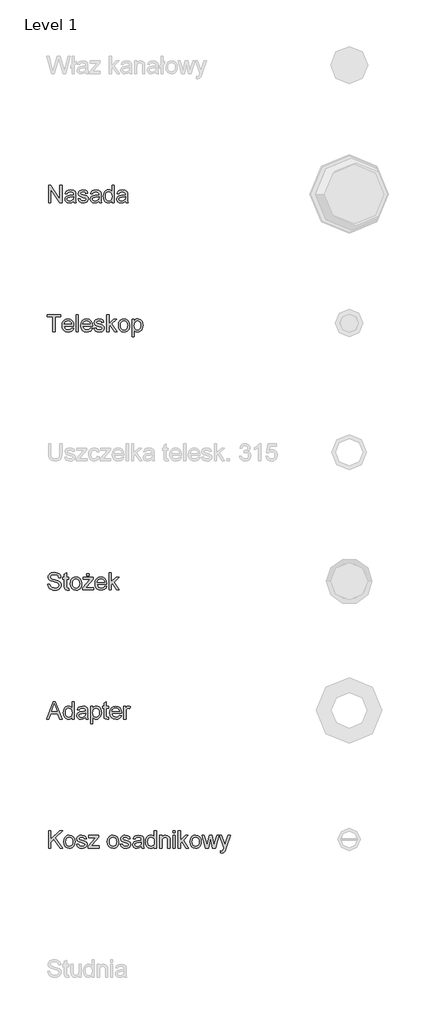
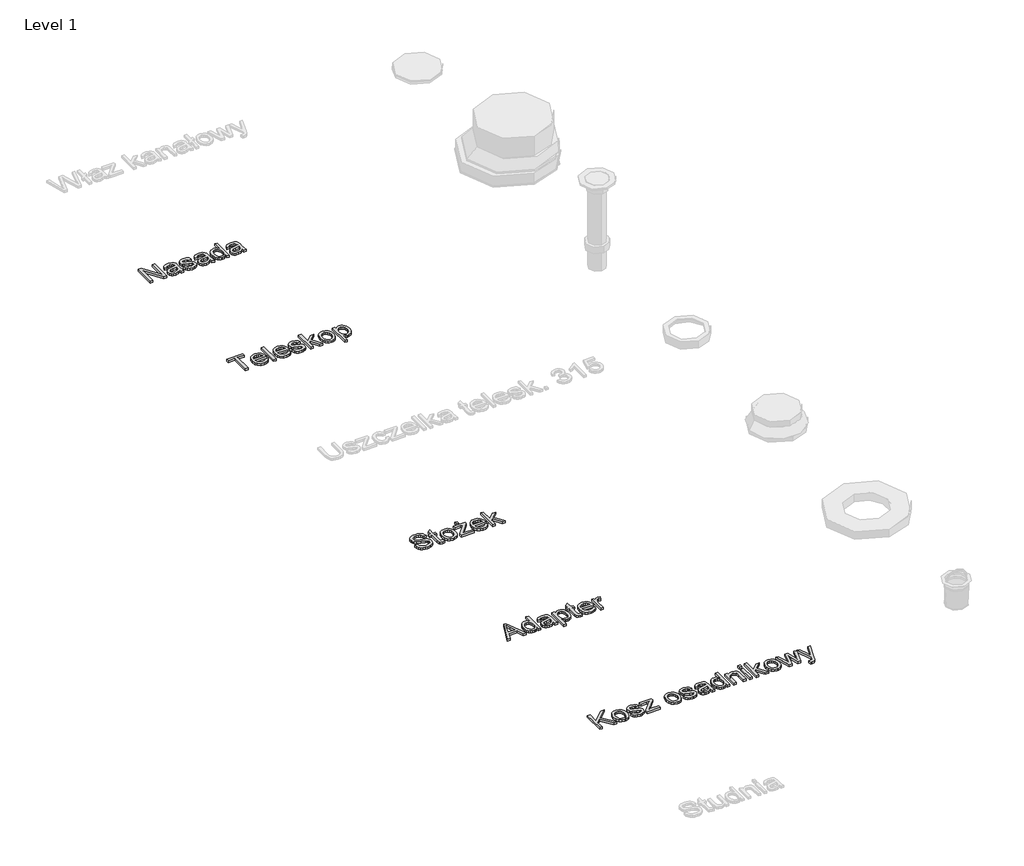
# One storey, part 2 of 8: 5 proxies.
"""IFC4 building model written with IfcOpenShell, lengths in millimetres."""

from ifc_helpers import new_model, si_unit, origin, origin_with_axes, place, context, project, spatial, polyline, outline, extrude, element, save

model = new_model("IFC4")

# Units and contexts
model_context = context("Model", 3, world=origin())
ifc_project = project(units=[si_unit("LENGTHUNIT", "METRE", prefix="MILLI")], contexts=[model_context])

# Site, building, storey
site = spatial("IfcSite", under=ifc_project)
building = spatial("IfcBuilding", under=site)
storey = spatial("IfcBuildingStorey", under=building, Name="Level 1", Elevation=0.0)

# Proxies
placement = place(None, origin())
element("IfcBuildingElementProxy", 1, Name="200mm Arial", ObjectType="200mm Arial", at=placement, inside=storey, context=model_context, shape_type="SweptSolid", body=[
    extrude(outline(polyline([(-16830.6923074, -20513.949573), (-16830.6923074, -20313.0369527), (-16803.8123963, -20313.0369527), (-16698.8434003, -20472.2072292), (-16698.8434003, -20313.0369527), (-16673.7293228, -20313.0369527), (-16673.7293228, -20513.949573), (-16700.6092339, -20513.949573), (-16805.5782298, -20354.7302454), (-16805.5782298, -20513.949573), (-16830.6923074, -20513.949573)])), origin_with_axes(), (0.0, 0.0, 1.0), 20.0),
    extrude(outline(polyline([(-16538.741156, -20495.1140148), (-16563.0949441, -20512.1346884), (-16589.9993807, -20517.0888326), (-16610.9870485, -20514.1089885), (-16626.4687491, -20505.169456), (-16636.0152869, -20491.5946104), (-16639.1974661, -20474.7088268), (-16634.3904747, -20454.8431991), (-16621.7598596, -20440.4222249), (-16604.1751002, -20432.1816682), (-16582.445537, -20428.4047463), (-16538.8883088, -20419.7717822), (-16538.741156, -20414.1799759), (-16540.4702014, -20402.9718377), (-16545.6573375, -20395.6387233), (-16557.2578831, -20390.1940698), (-16573.4201654, -20388.3791853), (-16588.3806999, -20389.5870645), (-16598.8285485, -20393.2107021), (-16605.9531965, -20399.9122858), (-16610.9441289, -20410.3540031), (-16636.0582065, -20407.2147434), (-16625.1934249, -20382.6892771), (-16615.9350613, -20374.4364576), (-16603.3167089, -20368.3173538), (-16570.1828039, -20363.2651077), (-16539.7467001, -20367.7287426), (-16522.5543482, -20378.9368807), (-16514.8533518, -20395.9820798), (-16513.6270785, -20417.9568977), (-16513.6270785, -20449.2023418), (-16512.3517542, -20492.8331464), (-16507.3485591, -20513.949573), (-16532.4626366, -20513.949573), (-16538.741156, -20495.1140148)]), holes=[polyline([(-16538.741156, -20444.8858597), (-16579.2572264, -20452.5868562), (-16600.8641623, -20456.6580836), (-16610.6498233, -20463.2799595), (-16614.0833886, -20472.9429932), (-16612.2133218, -20480.4109977), (-16606.6031214, -20486.5301016), (-16597.3754147, -20490.6135917), (-16584.652829, -20491.9747551), (-16571.1638225, -20490.4725703), (-16559.2444459, -20485.9660159), (-16542.8614343, -20471.4224143), (-16538.8883088, -20451.998245), (-16538.741156, -20444.8858597)])]), origin_with_axes(), (0.0, 0.0, 1.0), 20.0),
    extrude(outline(polyline([(-16488.5130009, -20469.9999373), (-16463.3989234, -20466.8606776), (-16459.4380606, -20477.6028318), (-16451.7738523, -20485.500032), (-16440.3572478, -20490.3560743), (-16425.1391959, -20491.9747551), (-16410.105085, -20490.4909644), (-16399.534609, -20486.0395923), (-16393.2806151, -20479.5893946), (-16391.1959505, -20472.1091274), (-16393.2928778, -20465.7079807), (-16399.58366, -20460.8274129), (-16425.4335015, -20453.6659767), (-16463.2517706, -20441.378718), (-16472.8228338, -20435.2044319), (-16479.7574094, -20427.0313202), (-16485.3737412, -20406.773285), (-16480.8610554, -20388.0603542), (-16468.5492713, -20373.7620073), (-16452.5831927, -20366.330791), (-16430.9762569, -20363.2651077), (-16400.4175258, -20368.1947265), (-16388.9886585, -20373.9949993), (-16380.9933565, -20381.5365802), (-16372.3603923, -20404.0754837), (-16397.4744699, -20407.2147434), (-16400.6443864, -20399.3114119), (-16406.9167744, -20393.3578549), (-16429.0142196, -20388.3791853), (-16443.4351938, -20389.5686704), (-16453.0491766, -20393.1371257), (-16458.4570419, -20398.2874737), (-16460.2596637, -20404.2226365), (-16457.2675568, -20411.5312255), (-16447.8988287, -20417.0739809), (-16426.2673673, -20422.4205326), (-16389.4055914, -20434.2418073), (-16372.2868159, -20447.632712), (-16367.6331087, -20457.4796867), (-16366.0818729, -20469.460377), (-16367.9028888, -20481.8457375), (-16373.3659364, -20493.495334), (-16382.2625494, -20503.4955929), (-16394.3842611, -20510.9329406), (-16409.0259645, -20515.5498596), (-16425.4825524, -20517.0888326), (-16450.8050964, -20514.1212512), (-16469.2850353, -20505.2185069), (-16481.6213449, -20490.4787017), (-16488.5130009, -20469.9999373)])), origin_with_axes(), (0.0, 0.0, 1.0), 20.0),
    extrude(outline(polyline([(-16243.6507449, -20495.1140148), (-16268.004533, -20512.1346884), (-16294.9089696, -20517.0888326), (-16315.8966374, -20514.1089885), (-16331.3783381, -20505.169456), (-16340.9248758, -20491.5946104), (-16344.1070551, -20474.7088268), (-16339.3000637, -20454.8431991), (-16326.6694485, -20440.4222249), (-16309.0846891, -20432.1816682), (-16287.355126, -20428.4047463), (-16243.7978977, -20419.7717822), (-16243.6507449, -20414.1799759), (-16245.3797903, -20402.9718377), (-16250.5669264, -20395.6387233), (-16262.167472, -20390.1940698), (-16278.3297543, -20388.3791853), (-16293.2902888, -20389.5870645), (-16303.7381375, -20393.2107021), (-16310.8627855, -20399.9122858), (-16315.8537179, -20410.3540031), (-16340.9677954, -20407.2147434), (-16330.1030138, -20382.6892771), (-16320.8446503, -20374.4364576), (-16308.2262978, -20368.3173538), (-16275.0923928, -20363.2651077), (-16244.6562891, -20367.7287426), (-16227.4639371, -20378.9368807), (-16219.7629407, -20395.9820798), (-16218.5366674, -20417.9568977), (-16218.5366674, -20449.2023418), (-16217.2613431, -20492.8331464), (-16212.258148, -20513.949573), (-16237.3722255, -20513.949573), (-16243.6507449, -20495.1140148)]), holes=[polyline([(-16243.6507449, -20444.8858597), (-16284.1668153, -20452.5868562), (-16305.7737512, -20456.6580836), (-16315.5594123, -20463.2799595), (-16318.9929775, -20472.9429932), (-16317.1229107, -20480.4109977), (-16311.5127103, -20486.5301016), (-16302.2850036, -20490.6135917), (-16289.5624179, -20491.9747551), (-16276.0734114, -20490.4725703), (-16264.1540348, -20485.9660159), (-16247.7710233, -20471.4224143), (-16243.7978977, -20451.998245), (-16243.6507449, -20444.8858597)])]), origin_with_axes(), (0.0, 0.0, 1.0), 20.0),
    extrude(outline(polyline([(-16092.9662797, -20513.949573), (-16092.9662797, -20490.2579725), (-16100.4802695, -20501.9964738), (-16109.5822832, -20510.3811176), (-16120.2723208, -20515.4119039), (-16132.5503824, -20517.0888326), (-16148.7862411, -20514.6608115), (-16163.6486737, -20507.376748), (-16176.230238, -20495.7455456), (-16185.6234916, -20480.2761077), (-16191.4728153, -20461.5938337), (-16193.4225899, -20440.324123), (-16191.6260994, -20419.3180611), (-16186.2366282, -20400.3476128), (-16177.2603075, -20384.4918989), (-16164.7032688, -20372.8300396), (-16149.5158737, -20365.6563407), (-16132.6484843, -20363.2651077), (-16120.3612256, -20364.975759), (-16109.496444, -20370.1077128), (-16092.9662797, -20387.8886759), (-16092.9662797, -20313.0369527), (-16067.8522022, -20313.0369527), (-16067.8522022, -20513.949573), (-16092.9662797, -20513.949573)]), holes=[polyline([(-16168.3085123, -20440.2260211), (-16165.475821, -20462.9427343), (-16156.9777469, -20479.0988853), (-16144.6291746, -20488.7557877), (-16130.2449886, -20491.9747551), (-16115.8669339, -20488.9029404), (-16103.8310613, -20479.6874965), (-16095.6824751, -20464.1567449), (-16092.9662797, -20442.1390075), (-16095.731526, -20418.0672623), (-16104.027265, -20401.3776824), (-16116.369706, -20391.6288096), (-16131.2750581, -20388.3791853), (-16145.806397, -20391.5000509), (-16157.7135109, -20400.8626476), (-16165.659762, -20416.9452222), (-16168.3085123, -20440.2260211)])]), origin_with_axes(), (0.0, 0.0, 1.0), 20.0),
    extrude(outline(polyline([(-15936.0032951, -20495.1140148), (-15960.3570832, -20512.1346884), (-15987.2615198, -20517.0888326), (-16008.2491876, -20514.1089885), (-16023.7308882, -20505.169456), (-16033.277426, -20491.5946104), (-16036.4596053, -20474.7088268), (-16031.6526138, -20454.8431991), (-16019.0219987, -20440.4222249), (-16001.4372393, -20432.1816682), (-15979.7076761, -20428.4047463), (-15936.1504479, -20419.7717822), (-15936.0032951, -20414.1799759), (-15937.7323405, -20402.9718377), (-15942.9194766, -20395.6387233), (-15954.5200222, -20390.1940698), (-15970.6823045, -20388.3791853), (-15985.642839, -20389.5870645), (-15996.0906876, -20393.2107021), (-16003.2153356, -20399.9122858), (-16008.206268, -20410.3540031), (-16033.3203456, -20407.2147434), (-16022.455564, -20382.6892771), (-16013.1972004, -20374.4364576), (-16000.578848, -20368.3173538), (-15967.444943, -20363.2651077), (-15937.0088392, -20367.7287426), (-15919.8164873, -20378.9368807), (-15912.1154909, -20395.9820798), (-15910.8892176, -20417.9568977), (-15910.8892176, -20449.2023418), (-15909.6138933, -20492.8331464), (-15904.6106982, -20513.949573), (-15929.7247757, -20513.949573), (-15936.0032951, -20495.1140148)]), holes=[polyline([(-15936.0032951, -20444.8858597), (-15976.5193655, -20452.5868562), (-15998.1263014, -20456.6580836), (-16007.9119624, -20463.2799595), (-16011.3455277, -20472.9429932), (-16009.4754609, -20480.4109977), (-16003.8652605, -20486.5301016), (-15994.6375538, -20490.6135917), (-15981.9149681, -20491.9747551), (-15968.4259616, -20490.4725703), (-15956.506585, -20485.9660159), (-15940.1235734, -20471.4224143), (-15936.1504479, -20451.998245), (-15936.0032951, -20444.8858597)])]), origin_with_axes(), (0.0, 0.0, 1.0), 20.0),
])
element("IfcBuildingElementProxy", 2, Name="200mm Arial", ObjectType="200mm Arial", at=placement, inside=storey, context=model_context, shape_type="SweptSolid", body=[
    extrude(outline(polyline([(-16780.4641523, -22013.949573), (-16780.4641523, -21838.1510302), (-16846.3886058, -21838.1510302), (-16846.3886058, -21813.0369527), (-16689.4256212, -21813.0369527), (-16689.4256212, -21838.1510302), (-16755.3500748, -21838.1510302), (-16755.3500748, -22013.949573), (-16780.4641523, -22013.949573)])), origin_with_axes(), (0.0, 0.0, 1.0), 20.0),
    extrude(outline(polyline([(-16561.0102794, -21969.9999373), (-16536.3867112, -21973.139197), (-16545.2587987, -21991.6927122), (-16559.4161241, -22005.5618635), (-16578.5398565, -22014.2070904), (-16602.3111648, -22017.0888326), (-16631.7785126, -22012.1162943), (-16654.4523062, -21997.1986794), (-16668.9100686, -21973.3047439), (-16673.7293228, -21941.4032435), (-16668.8610177, -21908.428754), (-16654.2561025, -21883.7683976), (-16631.8888772, -21868.3909302), (-16603.7336418, -21863.2651077), (-16576.4551919, -21868.3786675), (-16554.6581837, -21883.7193467), (-16540.3659681, -21908.3306521), (-16535.6018963, -21941.2560907), (-16535.7490491, -21948.0251194), (-16648.6152452, -21948.0251194), (-16644.2681063, -21966.8238894), (-16634.1697455, -21980.6439897), (-16619.5954872, -21989.1420637), (-16601.8206554, -21991.9747551), (-16577.1970872, -21986.7263053), (-16568.0490883, -21979.9204884), (-16561.0102794, -21969.9999373)]), holes=[polyline([(-16648.6152452, -21922.9110419), (-16560.7159738, -21922.9110419), (-16564.1127509, -21909.6427646), (-16570.771415, -21900.1514091), (-16585.4131185, -21891.3222412), (-16603.8317437, -21888.3791853), (-16620.7604468, -21890.7274987), (-16634.7583567, -21897.7724389), (-16644.4888355, -21908.7537164), (-16648.6152452, -21922.9110419)])]), origin_with_axes(), (0.0, 0.0, 1.0), 20.0),
    extrude(outline(polyline([(-16510.4878188, -22013.949573), (-16510.4878188, -21813.0369527), (-16485.3737412, -21813.0369527), (-16485.3737412, -22013.949573), (-16510.4878188, -22013.949573)])), origin_with_axes(), (0.0, 0.0, 1.0), 20.0),
    extrude(outline(polyline([(-16344.4013607, -21969.9999373), (-16319.7777925, -21973.139197), (-16328.6498799, -21991.6927122), (-16342.8072054, -22005.5618635), (-16361.9309377, -22014.2070904), (-16385.702246, -22017.0888326), (-16415.1695938, -22012.1162943), (-16437.8433875, -21997.1986794), (-16452.3011499, -21973.3047439), (-16457.120404, -21941.4032435), (-16452.2520989, -21908.428754), (-16437.6471837, -21883.7683976), (-16415.2799584, -21868.3909302), (-16387.1247231, -21863.2651077), (-16359.8462731, -21868.3786675), (-16338.0492649, -21883.7193467), (-16323.7570494, -21908.3306521), (-16318.9929775, -21941.2560907), (-16319.1401303, -21948.0251194), (-16432.0063265, -21948.0251194), (-16427.6591876, -21966.8238894), (-16417.5608268, -21980.6439897), (-16402.9865684, -21989.1420637), (-16385.2117367, -21991.9747551), (-16360.5881685, -21986.7263053), (-16351.4401695, -21979.9204884), (-16344.4013607, -21969.9999373)]), holes=[polyline([(-16432.0063265, -21922.9110419), (-16344.1070551, -21922.9110419), (-16347.5038322, -21909.6427646), (-16354.1624963, -21900.1514091), (-16368.8041997, -21891.3222412), (-16387.2228249, -21888.3791853), (-16404.1515281, -21890.7274987), (-16418.149438, -21897.7724389), (-16427.8799168, -21908.7537164), (-16432.0063265, -21922.9110419)])]), origin_with_axes(), (0.0, 0.0, 1.0), 20.0),
    extrude(outline(polyline([(-16303.2966791, -21969.9999373), (-16278.1826015, -21966.8606776), (-16274.2217387, -21977.6028318), (-16266.5575305, -21985.500032), (-16255.1409259, -21990.3560743), (-16239.922874, -21991.9747551), (-16224.8887632, -21990.4909644), (-16214.3182872, -21986.0395923), (-16208.0642933, -21979.5893946), (-16205.9796286, -21972.1091274), (-16208.076556, -21965.7079807), (-16214.3673381, -21960.8274129), (-16240.2171796, -21953.6659767), (-16278.0354487, -21941.378718), (-16287.606512, -21935.2044319), (-16294.5410876, -21927.0313202), (-16300.1574194, -21906.773285), (-16295.6447336, -21888.0603542), (-16283.3329495, -21873.7620073), (-16267.3668709, -21866.330791), (-16245.759935, -21863.2651077), (-16215.201204, -21868.1947265), (-16203.7723367, -21873.9949993), (-16195.7770346, -21881.5365802), (-16187.1440705, -21904.0754837), (-16212.258148, -21907.2147434), (-16215.4280645, -21899.3114119), (-16221.7004526, -21893.3578549), (-16243.7978977, -21888.3791853), (-16258.2188719, -21889.5686704), (-16267.8328548, -21893.1371257), (-16273.2407201, -21898.2874737), (-16275.0433419, -21904.2226365), (-16272.051235, -21911.5312255), (-16262.6825068, -21917.0739809), (-16241.0510455, -21922.4205326), (-16204.1892696, -21934.2418073), (-16187.0704941, -21947.632712), (-16182.4167868, -21957.4796867), (-16180.8655511, -21969.460377), (-16182.686567, -21981.8457375), (-16188.1496146, -21993.495334), (-16197.0462275, -22003.4955929), (-16209.1679393, -22010.9329406), (-16223.8096427, -22015.5498596), (-16240.2662306, -22017.0888326), (-16265.5887746, -22014.1212512), (-16284.0687135, -22005.2185069), (-16296.405023, -21990.4787017), (-16303.2966791, -21969.9999373)])), origin_with_axes(), (0.0, 0.0, 1.0), 20.0),
    extrude(outline(polyline([(-16152.6122139, -22013.949573), (-16152.6122139, -21813.0369527), (-16127.4981363, -21813.0369527), (-16127.4981363, -21920.9980555), (-16071.1876656, -21866.4043674), (-16036.4596053, -21866.4043674), (-16093.456789, -21921.6847686), (-16033.3203456, -22013.949573), (-16062.6528033, -22013.949573), (-16111.4584813, -21939.1469006), (-16127.4981363, -21954.6960463), (-16127.4981363, -22013.949573), (-16152.6122139, -22013.949573)])), origin_with_axes(), (0.0, 0.0, 1.0), 20.0),
    extrude(outline(polyline([(-16017.6240471, -21940.1769702), (-16012.1916563, -21904.6027813), (-16005.4011678, -21890.7796153), (-15995.8944839, -21879.5990683), (-15975.759076, -21867.3485979), (-15951.6505426, -21863.2651077), (-15925.2672722, -21868.237646), (-15904.1937653, -21883.1552609), (-15890.3797963, -21906.8407301), (-15885.77514, -21938.116831), (-15887.8107537, -21963.4884259), (-15893.9175949, -21982.8022307), (-15903.9178538, -21997.2661245), (-15917.6337208, -22008.0879865), (-15933.9247618, -22014.8386211), (-15951.6505426, -22017.0888326), (-15978.3526441, -22012.1346884), (-15999.4016256, -21997.2722558), (-16013.0684417, -21973.090146), (-16017.6240471, -21940.1769702)]), holes=[polyline([(-15992.5099696, -21940.1279193), (-15989.6037018, -21962.8568952), (-15980.8848985, -21979.0498343), (-15967.763774, -21988.7435249), (-15951.6505426, -21991.9747551), (-15935.6108876, -21988.7251308), (-15922.5142886, -21978.9762579), (-15913.7954853, -21962.568721), (-15910.8892176, -21939.3431043), (-15913.8138794, -21917.276316), (-15922.587865, -21901.304106), (-15935.7028581, -21891.6104155), (-15951.6505426, -21888.3791853), (-15967.763774, -21891.5981527), (-15980.8848985, -21901.2550551), (-15989.6037018, -21917.4112061), (-15992.5099696, -21940.1279193)])]), origin_with_axes(), (0.0, 0.0, 1.0), 20.0),
    extrude(outline(polyline([(-15857.5218028, -22070.4562474), (-15857.5218028, -21866.4043674), (-15832.4077253, -21866.4043674), (-15832.4077253, -21891.0279356), (-15815.0436951, -21870.2058147), (-15804.3505918, -21865.0002845), (-15791.5973493, -21863.2651077), (-15774.6134638, -21865.6931289), (-15759.7632939, -21872.9771924), (-15747.672239, -21884.6758398), (-15738.9656985, -21900.3476128), (-15733.704986, -21918.8520772), (-15731.9514151, -21939.0487987), (-15733.9318465, -21960.5269759), (-15739.8731407, -21979.7365474), (-15749.5852254, -21995.702626), (-15762.8780282, -22007.4503244), (-15778.3597288, -22014.6792056), (-15794.6385071, -22017.0888326), (-15806.1838704, -22015.4762832), (-15816.4906976, -22010.638635), (-15832.4077253, -21994.3291999), (-15832.4077253, -22070.4562474), (-15857.5218028, -22070.4562474)]), holes=[polyline([(-15832.4077253, -21941.3541926), (-15829.6915299, -21963.8685707), (-15821.5429437, -21979.6139201), (-15809.5193338, -21988.8845463), (-15795.1780673, -21991.9747551), (-15780.603809, -21988.7741818), (-15768.2736308, -21979.1724617), (-15759.8675272, -21962.8507638), (-15757.0654926, -21939.4902571), (-15759.8000821, -21917.0985064), (-15768.0038506, -21901.1324278), (-15780.0090664, -21891.5674959), (-15794.1479978, -21888.3791853), (-15808.3421114, -21891.769831), (-15820.8071797, -21901.9417682), (-15829.5075889, -21918.5761657), (-15832.4077253, -21941.3541926)])]), origin_with_axes(), (0.0, 0.0, 1.0), 20.0),
])
element("IfcBuildingElementProxy", 3, Name="200mm Arial", ObjectType="200mm Arial", at=placement, inside=storey, context=model_context, shape_type="SweptSolid", body=[
    extrude(outline(polyline([(-16840.1100864, -24944.8858597), (-16814.9960089, -24944.8858597), (-16806.902605, -24970.0244627), (-16798.7724129, -24978.9149443), (-16787.1350791, -24985.9169649), (-16772.9103087, -24990.4603076), (-16757.0178065, -24991.9747551), (-16730.7755575, -24987.3884929), (-16713.8284602, -24974.7824032), (-16708.2611794, -24957.9334078), (-16712.4305087, -24942.2616348), (-16718.7826044, -24936.0628232), (-16729.5002332, -24930.857293), (-16766.0677036, -24921.2678356), (-16805.431077, -24908.8824751), (-16817.9329335, -24900.433452), (-16826.7927582, -24890.1940698), (-16832.0718649, -24878.3850577), (-16833.8315671, -24865.227145), (-16831.6549319, -24850.5179966), (-16825.1250265, -24836.8021295), (-16814.4135291, -24825.1770585), (-16799.6921179, -24816.7402981), (-16782.0215194, -24811.6083442), (-16762.46246, -24809.897693), (-16741.2724571, -24811.688052), (-16722.7312045, -24817.0591291), (-16707.5008899, -24825.9005598), (-16696.2437009, -24838.1019793), (-16689.1190529, -24852.9030982), (-16686.2863615, -24869.5436271), (-16711.4004391, -24869.5436271), (-16716.0112267, -24854.5585672), (-16725.6252095, -24843.7428365), (-16740.6470577, -24837.194537), (-16761.4814413, -24835.0117705), (-16782.8063343, -24837.1700115), (-16797.435775, -24843.6447347), (-16805.8970609, -24853.1728783), (-16808.7174895, -24864.491381), (-16806.718664, -24874.1421521), (-16800.7221875, -24881.9044622), (-16786.5464679, -24888.8451691), (-16759.7156078, -24895.9330289), (-16715.2754628, -24908.5391186), (-16700.9587218, -24917.6503293), (-16690.9707256, -24928.8952557), (-16685.1030078, -24942.1512702), (-16683.1471018, -24957.2957457), (-16685.3973134, -24972.7774463), (-16692.147948, -24987.339442), (-16703.1230942, -24999.8719553), (-16718.0468404, -25009.2652089), (-16735.9933504, -25015.1329267), (-16756.0367878, -25017.0888326), (-16780.6419619, -25014.9796425), (-16800.8938658, -25008.6520722), (-16817.0254912, -24998.0815962), (-16829.2698303, -24983.2436891), (-16837.1302423, -24965.1684204), (-16840.1100864, -24944.8858597)])), origin_with_axes(), (0.0, 0.0, 1.0), 20.0),
    extrude(outline(polyline([(-16595.2478305, -24993.0048247), (-16592.1085708, -25014.6853369), (-16610.895078, -25017.0888326), (-16631.9379281, -25012.9195034), (-16642.4348277, -25001.9811454), (-16645.4759855, -24973.4825535), (-16645.4759855, -24891.518445), (-16664.3115437, -24891.518445), (-16664.3115437, -24866.4043674), (-16645.4759855, -24866.4043674), (-16645.4759855, -24830.5481356), (-16620.361908, -24815.7838049), (-16620.361908, -24866.4043674), (-16595.2478305, -24866.4043674), (-16595.2478305, -24891.518445), (-16620.361908, -24891.518445), (-16620.361908, -24972.7467895), (-16619.0375328, -24985.6962357), (-16614.7455762, -24990.2824979), (-16606.1861884, -24991.9747551), (-16595.2478305, -24993.0048247)])), origin_with_axes(), (0.0, 0.0, 1.0), 20.0),
    extrude(outline(polyline([(-16576.4122723, -24940.1769702), (-16570.9798815, -24904.6027813), (-16564.189393, -24890.7796153), (-16554.6827091, -24879.5990683), (-16534.5473013, -24867.3485979), (-16510.4387678, -24863.2651077), (-16484.0554974, -24868.237646), (-16462.9819905, -24883.1552609), (-16449.1680215, -24906.8407301), (-16444.5633652, -24938.116831), (-16446.5989789, -24963.4884259), (-16452.7058201, -24982.8022307), (-16462.706079, -24997.2661245), (-16476.421946, -25008.0879865), (-16492.712987, -25014.8386211), (-16510.4387678, -25017.0888326), (-16537.1408693, -25012.1346884), (-16558.1898508, -24997.2722558), (-16571.8566669, -24973.090146), (-16576.4122723, -24940.1769702)]), holes=[polyline([(-16551.2981948, -24940.1279193), (-16548.391927, -24962.8568952), (-16539.6731237, -24979.0498343), (-16526.5519992, -24988.7435249), (-16510.4387678, -24991.9747551), (-16494.3991128, -24988.7251308), (-16481.3025138, -24978.9762579), (-16472.5837105, -24962.568721), (-16469.6774428, -24939.3431043), (-16472.6021046, -24917.276316), (-16481.3760902, -24901.304106), (-16494.4910833, -24891.6104155), (-16510.4387678, -24888.3791853), (-16526.5519992, -24891.5981527), (-16539.6731237, -24901.2550551), (-16548.391927, -24917.4112061), (-16551.2981948, -24940.1279193)])]), origin_with_axes(), (0.0, 0.0, 1.0), 20.0),
    extrude(outline(polyline([(-16384.9174311, -24850.708069), (-16384.9174311, -24825.5939914), (-16359.8033535, -24825.5939914), (-16359.8033535, -24850.708069), (-16384.9174311, -24850.708069)])), origin_with_axes(), (0.0, 0.0, 1.0), 20.0),
    extrude(outline(polyline([(-16432.0063265, -25013.949573), (-16432.0063265, -24990.3070234), (-16345.3333284, -24891.518445), (-16370.9869662, -24891.518445), (-16425.7278071, -24891.518445), (-16425.7278071, -24866.4043674), (-16309.5751985, -24866.4043674), (-16309.5751985, -24887.7415231), (-16386.43801, -24975.3955399), (-16398.2102338, -24988.8354954), (-16369.1720817, -24988.8354954), (-16306.4359388, -24988.8354954), (-16306.4359388, -25013.949573), (-16432.0063265, -25013.949573)])), origin_with_axes(), (0.0, 0.0, 1.0), 20.0),
    extrude(outline(polyline([(-16178.020597, -24969.9999373), (-16153.3970288, -24973.139197), (-16162.2691162, -24991.6927122), (-16176.4264417, -25005.5618635), (-16195.5501741, -25014.2070904), (-16219.3214823, -25017.0888326), (-16248.7888301, -25012.1162943), (-16271.4626238, -24997.1986794), (-16285.9203862, -24973.3047439), (-16290.7396403, -24941.4032435), (-16285.8713352, -24908.428754), (-16271.26642, -24883.7683976), (-16248.8991947, -24868.3909302), (-16220.7439594, -24863.2651077), (-16193.4655094, -24868.3786675), (-16171.6685012, -24883.7193467), (-16157.3762857, -24908.3306521), (-16152.6122139, -24941.2560907), (-16152.7593667, -24948.0251194), (-16265.6255628, -24948.0251194), (-16261.2784239, -24966.8238894), (-16251.1800631, -24980.6439897), (-16236.6058047, -24989.1420637), (-16218.830973, -24991.9747551), (-16194.2074048, -24986.7263053), (-16185.0594058, -24979.9204884), (-16178.020597, -24969.9999373)]), holes=[polyline([(-16265.6255628, -24922.9110419), (-16177.7262914, -24922.9110419), (-16181.1230685, -24909.6427646), (-16187.7817326, -24900.1514091), (-16202.423436, -24891.3222412), (-16220.8420612, -24888.3791853), (-16237.7707644, -24890.7274987), (-16251.7686743, -24897.7724389), (-16261.4991531, -24908.7537164), (-16265.6255628, -24922.9110419)])]), origin_with_axes(), (0.0, 0.0, 1.0), 20.0),
    extrude(outline(polyline([(-16127.4981363, -25013.949573), (-16127.4981363, -24813.0369527), (-16102.3840588, -24813.0369527), (-16102.3840588, -24920.9980555), (-16046.0735881, -24866.4043674), (-16011.3455277, -24866.4043674), (-16068.3427115, -24921.6847686), (-16008.206268, -25013.949573), (-16037.5387258, -25013.949573), (-16086.3444038, -24939.1469006), (-16102.3840588, -24954.6960463), (-16102.3840588, -25013.949573), (-16127.4981363, -25013.949573)])), origin_with_axes(), (0.0, 0.0, 1.0), 20.0),
])
element("IfcBuildingElementProxy", 4, Name="200mm Arial", ObjectType="200mm Arial", at=placement, inside=storey, context=model_context, shape_type="SweptSolid", body=[
    extrude(outline(polyline([(-16854.0896023, -26513.949573), (-16773.8913273, -26313.0369527), (-16752.5051207, -26313.0369527), (-16672.3068457, -26513.949573), (-16698.8434003, -26513.949573), (-16721.8482877, -26451.1643791), (-16804.5972112, -26451.1643791), (-16827.5530477, -26513.949573), (-16854.0896023, -26513.949573)]), holes=[polyline([(-16795.3756358, -26426.0503016), (-16731.0208121, -26426.0503016), (-16749.1206063, -26376.6560124), (-16763.198224, -26338.1510302), (-16775.7062118, -26372.3395303), (-16795.3756358, -26426.0503016)])]), origin_with_axes(), (0.0, 0.0, 1.0), 20.0),
    extrude(outline(polyline([(-16557.5767142, -26513.949573), (-16557.5767142, -26490.2579725), (-16565.0907039, -26501.9964738), (-16574.1927176, -26510.3811176), (-16584.8827552, -26515.4119039), (-16597.1608168, -26517.0888326), (-16613.3966756, -26514.6608115), (-16628.2591082, -26507.376748), (-16640.8406724, -26495.7455456), (-16650.233926, -26480.2761077), (-16656.0832497, -26461.5938337), (-16658.0330243, -26440.324123), (-16656.2365339, -26419.3180611), (-16650.8470627, -26400.3476128), (-16641.870742, -26384.4918989), (-16629.3137032, -26372.8300396), (-16614.1263082, -26365.6563407), (-16597.2589187, -26363.2651077), (-16584.9716601, -26364.975759), (-16574.1068785, -26370.1077128), (-16557.5767142, -26387.8886759), (-16557.5767142, -26313.0369527), (-16532.4626366, -26313.0369527), (-16532.4626366, -26513.949573), (-16557.5767142, -26513.949573)]), holes=[polyline([(-16632.9189468, -26440.2260211), (-16630.0862554, -26462.9427343), (-16621.5881813, -26479.0988853), (-16609.239609, -26488.7557877), (-16594.855423, -26491.9747551), (-16580.4773684, -26488.9029404), (-16568.4414957, -26479.6874965), (-16560.2929095, -26464.1567449), (-16557.5767142, -26442.1390075), (-16560.3419605, -26418.0672623), (-16568.6376995, -26401.3776824), (-16580.9801404, -26391.6288096), (-16595.8854926, -26388.3791853), (-16610.4168314, -26391.5000509), (-16622.3239453, -26400.8626476), (-16630.2701964, -26416.9452222), (-16632.9189468, -26440.2260211)])]), origin_with_axes(), (0.0, 0.0, 1.0), 20.0),
    extrude(outline(polyline([(-16400.6137295, -26495.1140148), (-16424.9675176, -26512.1346884), (-16451.8719542, -26517.0888326), (-16472.859622, -26514.1089885), (-16488.3413227, -26505.169456), (-16497.8878604, -26491.5946104), (-16501.0700397, -26474.7088268), (-16496.2630483, -26454.8431991), (-16483.6324331, -26440.4222249), (-16466.0476738, -26432.1816682), (-16444.3181106, -26428.4047463), (-16400.7608823, -26419.7717822), (-16400.6137295, -26414.1799759), (-16402.3427749, -26402.9718377), (-16407.5299111, -26395.6387233), (-16419.1304566, -26390.1940698), (-16435.292739, -26388.3791853), (-16450.2532734, -26389.5870645), (-16460.7011221, -26393.2107021), (-16467.8257701, -26399.9122858), (-16472.8167025, -26410.3540031), (-16497.93078, -26407.2147434), (-16487.0659984, -26382.6892771), (-16477.8076349, -26374.4364576), (-16465.1892824, -26368.3173538), (-16432.0553774, -26363.2651077), (-16401.6192737, -26367.7287426), (-16384.4269218, -26378.9368807), (-16376.7259253, -26395.9820798), (-16375.499652, -26417.9568977), (-16375.499652, -26449.2023418), (-16374.2243278, -26492.8331464), (-16369.2211326, -26513.949573), (-16394.3352102, -26513.949573), (-16400.6137295, -26495.1140148)]), holes=[polyline([(-16400.6137295, -26444.8858597), (-16441.1297999, -26452.5868562), (-16462.7367358, -26456.6580836), (-16472.5223969, -26463.2799595), (-16475.9559622, -26472.9429932), (-16474.0858953, -26480.4109977), (-16468.4756949, -26486.5301016), (-16459.2479882, -26490.6135917), (-16446.5254025, -26491.9747551), (-16433.0363961, -26490.4725703), (-16421.1170194, -26485.9660159), (-16404.7340079, -26471.4224143), (-16400.7608823, -26451.998245), (-16400.6137295, -26444.8858597)])]), origin_with_axes(), (0.0, 0.0, 1.0), 20.0),
    extrude(outline(polyline([(-16340.9677954, -26570.4562474), (-16340.9677954, -26366.4043674), (-16315.8537179, -26366.4043674), (-16315.8537179, -26391.0279356), (-16298.4896877, -26370.2058147), (-16287.7965844, -26365.0002845), (-16275.0433419, -26363.2651077), (-16258.0594564, -26365.6931289), (-16243.2092865, -26372.9771924), (-16231.1182316, -26384.6758398), (-16222.4116911, -26400.3476128), (-16217.1509785, -26418.8520772), (-16215.3974077, -26439.0487987), (-16217.3778391, -26460.5269759), (-16223.3191333, -26479.7365474), (-16233.031218, -26495.702626), (-16246.3240208, -26507.4503244), (-16261.8057214, -26514.6792056), (-16278.0844997, -26517.0888326), (-16289.629863, -26515.4762832), (-16299.9366902, -26510.638635), (-16315.8537179, -26494.3291999), (-16315.8537179, -26570.4562474), (-16340.9677954, -26570.4562474)]), holes=[polyline([(-16315.8537179, -26441.3541926), (-16313.1375225, -26463.8685707), (-16304.9889363, -26479.6139201), (-16292.9653264, -26488.8845463), (-16278.6240599, -26491.9747551), (-16264.0498016, -26488.7741818), (-16251.7196234, -26479.1724617), (-16243.3135198, -26462.8507638), (-16240.5114852, -26439.4902571), (-16243.2460747, -26417.0985064), (-16251.4498432, -26401.1324278), (-16263.455059, -26391.5674959), (-16277.5939904, -26388.3791853), (-16291.788104, -26391.769831), (-16304.2531723, -26401.9417682), (-16312.9535815, -26418.5761657), (-16315.8537179, -26441.3541926)])]), origin_with_axes(), (0.0, 0.0, 1.0), 20.0),
    extrude(outline(polyline([(-16133.7766557, -26493.0048247), (-16130.637396, -26514.6853369), (-16149.4239032, -26517.0888326), (-16170.4667534, -26512.9195034), (-16180.963653, -26501.9811454), (-16184.0048108, -26473.4825535), (-16184.0048108, -26391.518445), (-16202.8403689, -26391.518445), (-16202.8403689, -26366.4043674), (-16184.0048108, -26366.4043674), (-16184.0048108, -26330.5481356), (-16158.8907332, -26315.7838049), (-16158.8907332, -26366.4043674), (-16133.7766557, -26366.4043674), (-16133.7766557, -26391.518445), (-16158.8907332, -26391.518445), (-16158.8907332, -26472.7467895), (-16157.5663581, -26485.6962357), (-16153.2744015, -26490.2824979), (-16144.7150137, -26491.9747551), (-16133.7766557, -26493.0048247)])), origin_with_axes(), (0.0, 0.0, 1.0), 20.0),
    extrude(outline(polyline([(-16005.3613139, -26469.9999373), (-15980.7377457, -26473.139197), (-15989.6098332, -26491.6927122), (-16003.7671586, -26505.5618635), (-16022.890891, -26514.2070904), (-16046.6621992, -26517.0888326), (-16076.1295471, -26512.1162943), (-16098.8033407, -26497.1986794), (-16113.2611031, -26473.3047439), (-16118.0803572, -26441.4032435), (-16113.2120522, -26408.428754), (-16098.607137, -26383.7683976), (-16076.2399117, -26368.3909302), (-16048.0846763, -26363.2651077), (-16020.8062264, -26368.3786675), (-15999.0092181, -26383.7193467), (-15984.7170026, -26408.3306521), (-15979.9529308, -26441.2560907), (-15980.1000836, -26448.0251194), (-16092.9662797, -26448.0251194), (-16088.6191408, -26466.8238894), (-16078.52078, -26480.6439897), (-16063.9465217, -26489.1420637), (-16046.1716899, -26491.9747551), (-16021.5481217, -26486.7263053), (-16012.4001228, -26479.9204884), (-16005.3613139, -26469.9999373)]), holes=[polyline([(-16092.9662797, -26422.9110419), (-16005.0670083, -26422.9110419), (-16008.4637854, -26409.6427646), (-16015.1224495, -26400.1514091), (-16029.7641529, -26391.3222412), (-16048.1827782, -26388.3791853), (-16065.1114813, -26390.7274987), (-16079.1093912, -26397.7724389), (-16088.83987, -26408.7537164), (-16092.9662797, -26422.9110419)])]), origin_with_axes(), (0.0, 0.0, 1.0), 20.0),
    extrude(outline(polyline([(-15954.8388533, -26513.949573), (-15954.8388533, -26366.4043674), (-15932.8640354, -26366.4043674), (-15932.8640354, -26388.2320325), (-15917.2658388, -26368.1211501), (-15901.5695404, -26363.2651077), (-15889.0615525, -26365.2026196), (-15876.3573609, -26371.0151551), (-15884.7450704, -26393.5295332), (-15902.4034062, -26388.3791853), (-15916.6036512, -26393.3333295), (-15925.6535483, -26407.0675906), (-15929.7247757, -26436.4000484), (-15929.7247757, -26513.949573), (-15954.8388533, -26513.949573)])), origin_with_axes(), (0.0, 0.0, 1.0), 20.0),
])
element("IfcBuildingElementProxy", 5, Name="200mm Arial", ObjectType="200mm Arial", at=placement, inside=storey, context=model_context, shape_type="SweptSolid", body=[
    extrude(outline(polyline([(-16830.6923074, -28013.949573), (-16830.6923074, -27813.0369527), (-16805.5782298, -27813.0369527), (-16805.5782298, -27911.3840727), (-16702.5712712, -27813.0369527), (-16667.4508034, -27813.0369527), (-16753.9275977, -27895.6387233), (-16664.3115437, -28013.949573), (-16695.0174275, -28013.949573), (-16771.7330863, -27912.610346), (-16805.5782298, -27944.8858597), (-16805.5782298, -28013.949573), (-16830.6923074, -28013.949573)])), origin_with_axes(), (0.0, 0.0, 1.0), 20.0),
    extrude(outline(polyline([(-16654.8937646, -27940.1769702), (-16649.4613738, -27904.6027813), (-16642.6708853, -27890.7796153), (-16633.1642014, -27879.5990683), (-16613.0287936, -27867.3485979), (-16588.9202601, -27863.2651077), (-16562.5369897, -27868.237646), (-16541.4634828, -27883.1552609), (-16527.6495138, -27906.8407301), (-16523.0448575, -27938.116831), (-16525.0804712, -27963.4884259), (-16531.1873124, -27982.8022307), (-16541.1875713, -27997.2661245), (-16554.9034383, -28008.0879865), (-16571.1944793, -28014.8386211), (-16588.9202601, -28017.0888326), (-16615.6223616, -28012.1346884), (-16636.6713431, -27997.2722558), (-16650.3381592, -27973.090146), (-16654.8937646, -27940.1769702)]), holes=[polyline([(-16629.7796871, -27940.1279193), (-16626.8734193, -27962.8568952), (-16618.154616, -27979.0498343), (-16605.0334915, -27988.7435249), (-16588.9202601, -27991.9747551), (-16572.8806052, -27988.7251308), (-16559.7840061, -27978.9762579), (-16551.0652028, -27962.568721), (-16548.1589351, -27939.3431043), (-16551.0835969, -27917.276316), (-16559.8575825, -27901.304106), (-16572.9725756, -27891.6104155), (-16588.9202601, -27888.3791853), (-16605.0334915, -27891.5981527), (-16618.154616, -27901.2550551), (-16626.8734193, -27917.4112061), (-16629.7796871, -27940.1279193)])]), origin_with_axes(), (0.0, 0.0, 1.0), 20.0),
    extrude(outline(polyline([(-16504.2092994, -27969.9999373), (-16479.0952218, -27966.8606776), (-16475.134359, -27977.6028318), (-16467.4701508, -27985.500032), (-16456.0535462, -27990.3560743), (-16440.8354943, -27991.9747551), (-16425.8013835, -27990.4909644), (-16415.2309075, -27986.0395923), (-16408.9769136, -27979.5893946), (-16406.8922489, -27972.1091274), (-16408.9891763, -27965.7079807), (-16415.2799584, -27960.8274129), (-16441.1297999, -27953.6659767), (-16478.948069, -27941.378718), (-16488.5191323, -27935.2044319), (-16495.4537079, -27927.0313202), (-16501.0700397, -27906.773285), (-16496.5573539, -27888.0603542), (-16484.2455698, -27873.7620073), (-16468.2794912, -27866.330791), (-16446.6725553, -27863.2651077), (-16416.1138243, -27868.1947265), (-16404.684957, -27873.9949993), (-16396.6896549, -27881.5365802), (-16388.0566908, -27904.0754837), (-16413.1707683, -27907.2147434), (-16416.3406848, -27899.3114119), (-16422.6130729, -27893.3578549), (-16444.710518, -27888.3791853), (-16459.1314922, -27889.5686704), (-16468.745475, -27893.1371257), (-16474.1533404, -27898.2874737), (-16475.9559622, -27904.2226365), (-16472.9638553, -27911.5312255), (-16463.5951271, -27917.0739809), (-16441.9636658, -27922.4205326), (-16405.1018899, -27934.2418073), (-16387.9831144, -27947.632712), (-16383.3294071, -27957.4796867), (-16381.7781714, -27969.460377), (-16383.5991873, -27981.8457375), (-16389.0622349, -27993.495334), (-16397.9588478, -28003.4955929), (-16410.0805596, -28010.9329406), (-16424.722263, -28015.5498596), (-16441.1788509, -28017.0888326), (-16466.5013949, -28014.1212512), (-16484.9813338, -28005.2185069), (-16497.3176433, -27990.4787017), (-16504.2092994, -27969.9999373)])), origin_with_axes(), (0.0, 0.0, 1.0), 20.0),
    extrude(outline(polyline([(-16369.2211326, -28013.949573), (-16369.2211326, -27990.3070234), (-16282.5481346, -27891.518445), (-16308.2017724, -27891.518445), (-16362.9426132, -27891.518445), (-16362.9426132, -27866.4043674), (-16246.7900046, -27866.4043674), (-16246.7900046, -27887.7415231), (-16323.6528162, -27975.3955399), (-16335.42504, -27988.8354954), (-16306.3868878, -27988.8354954), (-16243.6507449, -27988.8354954), (-16243.6507449, -28013.949573), (-16369.2211326, -28013.949573)])), origin_with_axes(), (0.0, 0.0, 1.0), 20.0),
    extrude(outline(polyline([(-16146.3336945, -27940.1769702), (-16140.9013037, -27904.6027813), (-16134.1108152, -27890.7796153), (-16124.6041313, -27879.5990683), (-16104.4687234, -27867.3485979), (-16080.36019, -27863.2651077), (-16053.9769196, -27868.237646), (-16032.9034126, -27883.1552609), (-16019.0894437, -27906.8407301), (-16014.4847874, -27938.116831), (-16016.5204011, -27963.4884259), (-16022.6272422, -27982.8022307), (-16032.6275011, -27997.2661245), (-16046.3433682, -28008.0879865), (-16062.6344092, -28014.8386211), (-16080.36019, -28017.0888326), (-16107.0622915, -28012.1346884), (-16128.111273, -27997.2722558), (-16141.7780891, -27973.090146), (-16146.3336945, -27940.1769702)]), holes=[polyline([(-16121.2196169, -27940.1279193), (-16118.3133492, -27962.8568952), (-16109.5945459, -27979.0498343), (-16096.4734214, -27988.7435249), (-16080.36019, -27991.9747551), (-16064.320535, -27988.7251308), (-16051.223936, -27978.9762579), (-16042.5051327, -27962.568721), (-16039.5988649, -27939.3431043), (-16042.5235268, -27917.276316), (-16051.2975124, -27901.304106), (-16064.4125055, -27891.6104155), (-16080.36019, -27888.3791853), (-16096.4734214, -27891.5981527), (-16109.5945459, -27901.2550551), (-16118.3133492, -27917.4112061), (-16121.2196169, -27940.1279193)])]), origin_with_axes(), (0.0, 0.0, 1.0), 20.0),
    extrude(outline(polyline([(-15995.6492293, -27969.9999373), (-15970.5351517, -27966.8606776), (-15966.5742889, -27977.6028318), (-15958.9100807, -27985.500032), (-15947.4934761, -27990.3560743), (-15932.2754242, -27991.9747551), (-15917.2413133, -27990.4909644), (-15906.6708374, -27986.0395923), (-15900.4168434, -27979.5893946), (-15898.3321788, -27972.1091274), (-15900.4291062, -27965.7079807), (-15906.7198883, -27960.8274129), (-15932.5697298, -27953.6659767), (-15970.3879989, -27941.378718), (-15979.9590622, -27935.2044319), (-15986.8936378, -27927.0313202), (-15992.5099696, -27906.773285), (-15987.9972838, -27888.0603542), (-15975.6854996, -27873.7620073), (-15959.7194211, -27866.330791), (-15938.1124852, -27863.2651077), (-15907.5537541, -27868.1947265), (-15896.1248868, -27873.9949993), (-15888.1295848, -27881.5365802), (-15879.4966206, -27904.0754837), (-15904.6106982, -27907.2147434), (-15907.7806147, -27899.3114119), (-15914.0530027, -27893.3578549), (-15936.1504479, -27888.3791853), (-15950.5714221, -27889.5686704), (-15960.1854049, -27893.1371257), (-15965.5932702, -27898.2874737), (-15967.395892, -27904.2226365), (-15964.4037851, -27911.5312255), (-15955.035057, -27917.0739809), (-15933.4035957, -27922.4205326), (-15896.5418198, -27934.2418073), (-15879.4230442, -27947.632712), (-15874.769337, -27957.4796867), (-15873.2181013, -27969.460377), (-15875.0391171, -27981.8457375), (-15880.5021648, -27993.495334), (-15889.3987777, -28003.4955929), (-15901.5204894, -28010.9329406), (-15916.1621928, -28015.5498596), (-15932.6187807, -28017.0888326), (-15957.9413247, -28014.1212512), (-15976.4212636, -28005.2185069), (-15988.7575732, -27990.4787017), (-15995.6492293, -27969.9999373)])), origin_with_axes(), (0.0, 0.0, 1.0), 20.0),
    extrude(outline(polyline([(-15750.7869733, -27995.1140148), (-15775.1407613, -28012.1346884), (-15802.0451979, -28017.0888326), (-15823.0328657, -28014.1089885), (-15838.5145664, -28005.169456), (-15848.0611042, -27991.5946104), (-15851.2432834, -27974.7088268), (-15846.436292, -27954.8431991), (-15833.8056768, -27940.4222249), (-15816.2209175, -27932.1816682), (-15794.4913543, -27928.4047463), (-15750.9341261, -27919.7717822), (-15750.7869733, -27914.1799759), (-15752.5160186, -27902.9718377), (-15757.7031548, -27895.6387233), (-15769.3037004, -27890.1940698), (-15785.4659827, -27888.3791853), (-15800.4265171, -27889.5870645), (-15810.8743658, -27893.2107021), (-15817.9990138, -27899.9122858), (-15822.9899462, -27910.3540031), (-15848.1040237, -27907.2147434), (-15837.2392421, -27882.6892771), (-15827.9808786, -27874.4364576), (-15815.3625261, -27868.3173538), (-15782.2286211, -27863.2651077), (-15751.7925174, -27867.7287426), (-15734.6001655, -27878.9368807), (-15726.899169, -27895.9820798), (-15725.6728957, -27917.9568977), (-15725.6728957, -27949.2023418), (-15724.3975715, -27992.8331464), (-15719.3943763, -28013.949573), (-15744.5084539, -28013.949573), (-15750.7869733, -27995.1140148)]), holes=[polyline([(-15750.7869733, -27944.8858597), (-15791.3030437, -27952.5868562), (-15812.9099795, -27956.6580836), (-15822.6956406, -27963.2799595), (-15826.1292059, -27972.9429932), (-15824.2591391, -27980.4109977), (-15818.6489386, -27986.5301016), (-15809.4212319, -27990.6135917), (-15796.6986463, -27991.9747551), (-15783.2096398, -27990.4725703), (-15771.2902631, -27985.9660159), (-15754.9072516, -27971.4224143), (-15750.9341261, -27951.998245), (-15750.7869733, -27944.8858597)])]), origin_with_axes(), (0.0, 0.0, 1.0), 20.0),
    extrude(outline(polyline([(-15600.102508, -28013.949573), (-15600.102508, -27990.2579725), (-15607.6164978, -28001.9964738), (-15616.7185115, -28010.3811176), (-15627.4085491, -28015.4119039), (-15639.6866107, -28017.0888326), (-15655.9224694, -28014.6608115), (-15670.784902, -28007.376748), (-15683.3664663, -27995.7455456), (-15692.7597199, -27980.2761077), (-15698.6090436, -27961.5938337), (-15700.5588182, -27940.324123), (-15698.7623278, -27919.3180611), (-15693.3728565, -27900.3476128), (-15684.3965359, -27884.4918989), (-15671.8394971, -27872.8300396), (-15656.6521021, -27865.6563407), (-15639.7847126, -27863.2651077), (-15627.4974539, -27864.975759), (-15616.6326724, -27870.1077128), (-15600.102508, -27887.8886759), (-15600.102508, -27813.0369527), (-15574.9884305, -27813.0369527), (-15574.9884305, -28013.949573), (-15600.102508, -28013.949573)]), holes=[polyline([(-15675.4447407, -27940.2260211), (-15672.6120493, -27962.9427343), (-15664.1139752, -27979.0988853), (-15651.7654029, -27988.7557877), (-15637.3812169, -27991.9747551), (-15623.0031622, -27988.9029404), (-15610.9672896, -27979.6874965), (-15602.8187034, -27964.1567449), (-15600.102508, -27942.1390075), (-15602.8677544, -27918.0672623), (-15611.1634934, -27901.3776824), (-15623.5059343, -27891.6288096), (-15638.4112865, -27888.3791853), (-15652.9426253, -27891.5000509), (-15664.8497392, -27900.8626476), (-15672.7959903, -27916.9452222), (-15675.4447407, -27940.2260211)])]), origin_with_axes(), (0.0, 0.0, 1.0), 20.0),
    extrude(outline(polyline([(-15537.3173142, -28013.949573), (-15537.3173142, -27866.4043674), (-15512.2032367, -27866.4043674), (-15512.2032367, -27887.0057592), (-15503.478302, -27876.6192242), (-15492.9997965, -27869.2002706), (-15480.7677202, -27864.7488984), (-15466.782073, -27863.2651077), (-15443.065947, -27868.0475737), (-15426.8791392, -27880.6046124), (-15419.3498211, -27899.0722886), (-15418.0254459, -27923.3525003), (-15418.0254459, -28013.949573), (-15443.1395234, -28013.949573), (-15443.1395234, -27926.7370146), (-15446.0335285, -27904.5169421), (-15456.2606479, -27892.7692437), (-15473.5020508, -27888.3791853), (-15488.2111992, -27890.8439946), (-15500.7498439, -27898.2384227), (-15509.3398885, -27912.5245069), (-15512.2032367, -27935.6642844), (-15512.2032367, -28013.949573), (-15537.3173142, -28013.949573)])), origin_with_axes(), (0.0, 0.0, 1.0), 20.0),
    extrude(outline(polyline([(-15383.4935893, -28013.949573), (-15383.4935893, -27866.4043674), (-15358.3795117, -27866.4043674), (-15358.3795117, -28013.949573), (-15383.4935893, -28013.949573)])), origin_with_axes(), (0.0, 0.0, 1.0), 20.0),
    extrude(outline(polyline([(-15383.4935893, -27838.1510302), (-15383.4935893, -27813.0369527), (-15358.3795117, -27813.0369527), (-15358.3795117, -27838.1510302), (-15383.4935893, -27838.1510302)])), origin_with_axes(), (0.0, 0.0, 1.0), 20.0),
    extrude(outline(polyline([(-15320.7083954, -28013.949573), (-15320.7083954, -27813.0369527), (-15295.5943179, -27813.0369527), (-15295.5943179, -27920.9980555), (-15239.2838472, -27866.4043674), (-15204.5557868, -27866.4043674), (-15261.5529706, -27921.6847686), (-15201.4165271, -28013.949573), (-15230.7489849, -28013.949573), (-15279.5546629, -27939.1469006), (-15295.5943179, -27954.6960463), (-15295.5943179, -28013.949573), (-15320.7083954, -28013.949573)])), origin_with_axes(), (0.0, 0.0, 1.0), 20.0),
    extrude(outline(polyline([(-15185.7202287, -27940.1769702), (-15180.2878379, -27904.6027813), (-15173.4973494, -27890.7796153), (-15163.9906655, -27879.5990683), (-15143.8552576, -27867.3485979), (-15119.7467242, -27863.2651077), (-15093.3634538, -27868.237646), (-15072.2899468, -27883.1552609), (-15058.4759779, -27906.8407301), (-15053.8713216, -27938.116831), (-15055.9069353, -27963.4884259), (-15062.0137764, -27982.8022307), (-15072.0140353, -27997.2661245), (-15085.7299024, -28008.0879865), (-15102.0209434, -28014.8386211), (-15119.7467242, -28017.0888326), (-15146.4488257, -28012.1346884), (-15167.4978072, -27997.2722558), (-15181.1646233, -27973.090146), (-15185.7202287, -27940.1769702)]), holes=[polyline([(-15160.6061511, -27940.1279193), (-15157.6998834, -27962.8568952), (-15148.9810801, -27979.0498343), (-15135.8599556, -27988.7435249), (-15119.7467242, -27991.9747551), (-15103.7070692, -27988.7251308), (-15090.6104702, -27978.9762579), (-15081.8916669, -27962.568721), (-15078.9853991, -27939.3431043), (-15081.910061, -27917.276316), (-15090.6840466, -27901.304106), (-15103.7990397, -27891.6104155), (-15119.7467242, -27888.3791853), (-15135.8599556, -27891.5981527), (-15148.9810801, -27901.2550551), (-15157.6998834, -27917.4112061), (-15160.6061511, -27940.1279193)])]), origin_with_axes(), (0.0, 0.0, 1.0), 20.0),
    extrude(outline(polyline([(-15001.141569, -28013.949573), (-15046.0231724, -27866.4043674), (-15019.9280762, -27866.4043674), (-14994.4706421, -27952.4887543), (-14986.8677475, -27983.2436891), (-14980.6382791, -27953.6169257), (-14960.3802439, -27866.4043674), (-14930.459175, -27866.4043674), (-14910.2992416, -27953.3716711), (-14904.7564862, -27980.2025313), (-14896.8102351, -27951.9001431), (-14871.3037501, -27866.4043674), (-14845.1105521, -27866.4043674), (-14890.335512, -28013.949573), (-14920.6980393, -28013.949573), (-14939.9750559, -27927.4237277), (-14945.5668622, -27900.4457147), (-14970.4356851, -28013.949573), (-15001.141569, -28013.949573)])), origin_with_axes(), (0.0, 0.0, 1.0), 20.0),
    extrude(outline(polyline([(-14827.8446238, -28070.4562474), (-14830.9838835, -28046.2741376), (-14818.230641, -28048.4814296), (-14806.3112643, -28045.7100519), (-14799.0026753, -28037.98453), (-14792.1355448, -28019.4923283), (-14790.1735075, -28013.4100127), (-14843.5409222, -27866.4043674), (-14817.0534186, -27866.4043674), (-14788.7510304, -27948.319425), (-14778.8917929, -27981.0854481), (-14769.0325555, -27952.1453978), (-14739.9453524, -27866.4043674), (-14713.6540525, -27866.4043674), (-14765.010379, -28017.4812401), (-14778.3522327, -28050.2472631), (-14792.9203597, -28067.9546498), (-14812.4916818, -28073.5955071), (-14827.8446238, -28070.4562474)])), origin_with_axes(), (0.0, 0.0, 1.0), 20.0),
])

save(model, "model.ifc")
